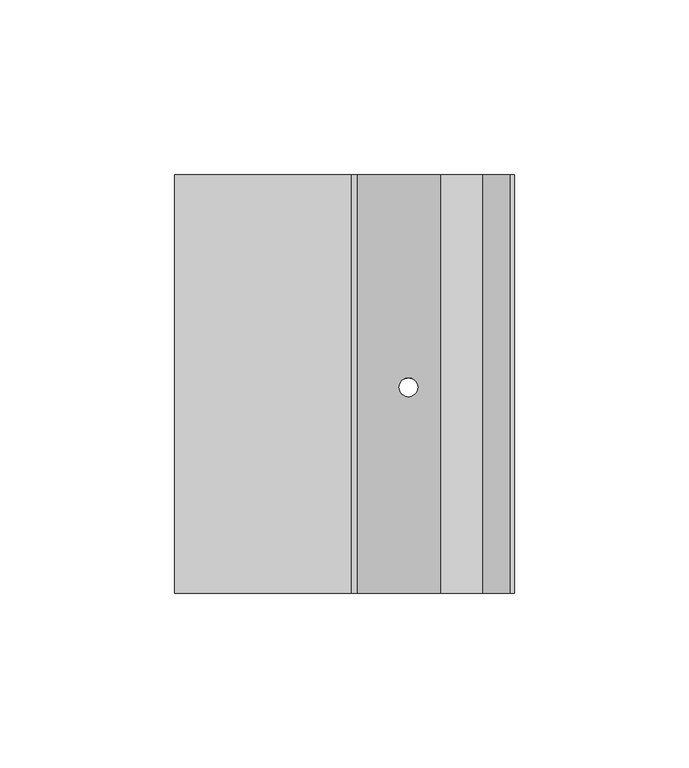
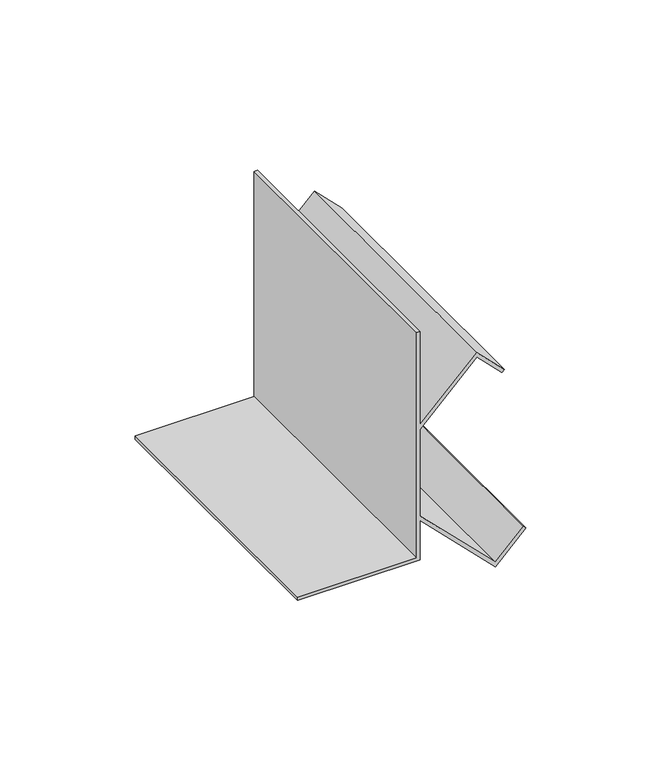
"""IFC4 building model written with IfcOpenShell, lengths in millimetres: proxy geometry, Mechanical Fittings & Accessories18 : Mechanical Fittings & Accessories."""

from ifc_helpers import new_model, si_unit, frame, origin, place, context, project, spatial, polyline, ellipse_curve, source, transform, mapped, element, save
from ifc_brep_helpers import plane_surface, revolved_surface, advanced_brep


def generic_models_3031afbb(model_context):
    return source(origin(), model_context, "Body", "AdvancedBrep", [
        advanced_brep(
        [(-12208.7639562, 10780.4963986, 4114.8), (-12259.5639562, 10780.4963986, 4114.8), (-12259.5639562, 10780.4963986, 4113.3117188), (-12207.275675, 10780.4963986, 4113.3117188), (-12207.275675, 10780.4963986, 4131.1383509), (-12175.165914, 10780.4963986, 4099.0285899), (-12162.1869427, 10780.4963986, 4112.0075612), (-12163.2393164, 10780.4963986, 4113.059935), (-12175.165914, 10780.4963986, 4101.1333374), (-12207.275675, 10780.4963986, 4133.2430984), (-12207.275675, 10780.4963986, 4172.2761118), (-12183.103414, 10780.4963986, 4196.4483729), (-12172.3674414, 10780.4963986, 4185.7124003), (-12171.3150677, 10780.4963986, 4186.7647741), (-12183.103414, 10780.4963986, 4198.5531204), (-12207.275675, 10780.4963986, 4174.3808594), (-12207.275675, 10780.4963986, 4216.4), (-12208.7639562, 10780.4963986, 4216.4), (-12208.7639562, 10900.4645457, 4114.8), (-12208.7639562, 10900.4645457, 4216.4), (-12207.275675, 10900.4645457, 4216.4), (-12207.275675, 10900.4645457, 4174.3808594), (-12183.103414, 10900.4645457, 4198.5531204), (-12171.3150677, 10900.4645457, 4186.7647741), (-12172.3674414, 10900.4645457, 4185.7124003), (-12183.103414, 10900.4645457, 4196.4483729), (-12207.275675, 10900.4645457, 4172.2761118), (-12207.275675, 10900.4645457, 4133.2430984), (-12175.165914, 10900.4645457, 4101.1333374), (-12163.2393164, 10900.4645457, 4113.059935), (-12162.1869427, 10900.4645457, 4112.0075612), (-12175.165914, 10900.4645457, 4099.0285899), (-12207.275675, 10900.4645457, 4131.1383509), (-12207.275675, 10900.4645457, 4113.3117188), (-12259.5639562, 10900.4645457, 4113.3117188), (-12259.5639562, 10900.4645457, 4114.8), (-12195.1617646, 10839.5191481, 4119.0244406), (-12189.8223978, 10839.5191481, 4113.6850737), (-12189.8223978, 10839.5191481, 4115.7898213), (-12195.1617646, 10839.5191481, 4121.1291881), (-12195.1617646, 10839.5191481, 4184.3900222), (-12189.8223978, 10839.5191481, 4189.729389), (-12189.8223978, 10839.5191481, 4191.8341365), (-12195.1617646, 10839.5191481, 4186.4947697)],
        [
            (0, 1),
            (1, 2),
            (2, 3),
            (3, 4),
            (4, 5),
            (5, 6),
            (6, 7),
            (7, 8),
            (8, 9),
            (9, 10),
            (10, 11),
            (11, 12),
            (12, 13),
            (13, 14),
            (14, 15),
            (15, 16),
            (16, 17),
            (17, 0),
            (18, 19),
            (19, 20),
            (20, 21),
            (21, 22),
            (22, 23),
            (23, 24),
            (24, 25),
            (25, 26),
            (26, 27),
            (27, 28),
            (28, 29),
            (29, 30),
            (30, 31),
            (31, 32),
            (32, 33),
            (33, 34),
            (34, 35),
            (35, 18),
            (0, 18),
            (35, 1),
            (34, 2),
            (33, 3),
            (32, 4),
            (31, 5),
            (36, 37, ellipse_curve(frame((-12192.4920812, 10839.5191481, 4116.3547571), z_axis=(0.7071067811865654, 0.0, 0.7071067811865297), x_axis=(-0.7071067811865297, 0.0, 0.7071067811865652)), 3.7755025, 2.6696834)),
            (37, 36, ellipse_curve(frame((-12192.4920812, 10839.5191481, 4116.3547571), z_axis=(0.7071067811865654, 0.0, 0.7071067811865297), x_axis=(-0.7071067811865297, 0.0, 0.7071067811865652)), 3.7755025, 2.6696834)),
            (30, 6),
            (29, 7),
            (28, 8),
            (27, 9),
            (38, 39, ellipse_curve(frame((-12192.4920812, 10839.5191481, 4118.4595047), z_axis=(-0.7071067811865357, 0.0, -0.7071067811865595), x_axis=(-0.7071067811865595, 0.0, 0.7071067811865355)), 3.7755025, 2.6696834)),
            (39, 38, ellipse_curve(frame((-12192.4920812, 10839.5191481, 4118.4595047), z_axis=(-0.7071067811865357, 0.0, -0.7071067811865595), x_axis=(-0.7071067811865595, 0.0, 0.7071067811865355)), 3.7755025, 2.6696834)),
            (26, 10),
            (25, 11),
            (40, 41, ellipse_curve(frame((-12192.4920812, 10839.5191481, 4187.0597056), z_axis=(-0.7071067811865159, 0.0, 0.7071067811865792), x_axis=(0.7071067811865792, 0.0, 0.7071067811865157)), 3.7755025, 2.6696834)),
            (41, 40, ellipse_curve(frame((-12192.4920812, 10839.5191481, 4187.0597056), z_axis=(-0.7071067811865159, 0.0, 0.7071067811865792), x_axis=(0.7071067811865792, 0.0, 0.7071067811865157)), 3.7755025, 2.6696834)),
            (24, 12),
            (23, 13),
            (22, 14),
            (21, 15),
            (42, 43, ellipse_curve(frame((-12192.4920812, 10839.5191481, 4189.1644531), z_axis=(0.7071067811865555, 0.0, -0.7071067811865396), x_axis=(0.7071067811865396, 0.0, 0.7071067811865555)), 3.7755025, 2.6696834)),
            (43, 42, ellipse_curve(frame((-12192.4920812, 10839.5191481, 4189.1644531), z_axis=(0.7071067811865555, 0.0, -0.7071067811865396), x_axis=(0.7071067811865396, 0.0, 0.7071067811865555)), 3.7755025, 2.6696834)),
            (20, 16),
            (19, 17),
            (36, 39),
            (38, 37),
            (40, 43),
            (42, 41),
        ],
        [
            plane_surface(frame((-12259.5639562, 10780.4963986, 4114.8), z_axis=(0.0, -1.0, 0.0), x_axis=(-1.0, 0.0, 0.0))),
            plane_surface(frame((-12259.5639562, 10900.4645457, 4114.8), z_axis=(0.0, 1.0, 0.0), x_axis=(1.0, 0.0, 0.0))),
            plane_surface(frame((-12208.7639562, 10780.4963986, 4114.8), z_axis=(0.0, 0.0, 1.0), x_axis=(0.0, 1.0, 0.0))),
            plane_surface(frame((-12259.5639562, 10780.4963986, 4114.8), z_axis=(-1.0, 0.0, 0.0), x_axis=(0.0, 1.0, 0.0))),
            plane_surface(frame((-12259.5639562, 10780.4963986, 4113.3117188), z_axis=(0.0, 0.0, -1.0), x_axis=(0.0, 1.0, 0.0))),
            plane_surface(frame((-12207.275675, 10780.4963986, 4113.3117188), z_axis=(1.0, 0.0, 0.0), x_axis=(0.0, 1.0, 0.0))),
            plane_surface(frame((-12207.275675, 10780.4963986, 4131.1383509), z_axis=(-0.7071067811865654, 0.0, -0.7071067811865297), x_axis=(0.0, 1.0, 0.0))),
            plane_surface(frame((-12175.165914, 10780.4963986, 4099.0285899), z_axis=(0.7071067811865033, 0.0, -0.7071067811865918), x_axis=(0.0, 1.0, 0.0))),
            plane_surface(frame((-12162.1869427, 10780.4963986, 4112.0075612), z_axis=(0.7071067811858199, 0.0, 0.7071067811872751), x_axis=(0.0, 1.0, 0.0))),
            plane_surface(frame((-12163.2393164, 10780.4963986, 4113.059935), z_axis=(-0.7071067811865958, 0.0, 0.7071067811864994), x_axis=(0.0, 1.0, 0.0))),
            plane_surface(frame((-12175.165914, 10780.4963986, 4101.1333374), z_axis=(0.7071067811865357, 0.0, 0.7071067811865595), x_axis=(0.0, 1.0, 0.0))),
            plane_surface(frame((-12207.275675, 10780.4963986, 4133.2430984), z_axis=(1.0, 0.0, 0.0), x_axis=(0.0, 1.0, 0.0))),
            plane_surface(frame((-12207.275675, 10780.4963986, 4172.2761118), z_axis=(0.7071067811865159, 0.0, -0.7071067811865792), x_axis=(0.0, 1.0, 0.0))),
            plane_surface(frame((-12183.103414, 10780.4963986, 4196.4483729), z_axis=(-0.7071067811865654, 0.0, -0.7071067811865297), x_axis=(0.0, 1.0, 0.0))),
            plane_surface(frame((-12172.3674414, 10780.4963986, 4185.7124003), z_axis=(0.7071067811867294, 0.0, -0.7071067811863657), x_axis=(0.0, 1.0, 0.0))),
            plane_surface(frame((-12171.3150677, 10780.4963986, 4186.7647741), z_axis=(0.7071067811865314, 0.0, 0.7071067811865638), x_axis=(0.0, 1.0, 0.0))),
            plane_surface(frame((-12183.103414, 10780.4963986, 4198.5531204), z_axis=(-0.7071067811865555, 0.0, 0.7071067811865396), x_axis=(0.0, 1.0, 0.0))),
            plane_surface(frame((-12207.275675, 10780.4963986, 4174.3808594), z_axis=(1.0, 0.0, 0.0), x_axis=(0.0, 1.0, 0.0))),
            plane_surface(frame((-12207.275675, 10780.4963986, 4216.4), z_axis=(0.0, 0.0, 1.0), x_axis=(0.0, 1.0, 0.0))),
            plane_surface(frame((-12208.7639562, 10780.4963986, 4216.4), z_axis=(-1.0, 0.0, 0.0), x_axis=(0.0, 1.0, 0.0))),
            revolved_surface(polyline([(-12189.8223978, 10839.5191481, 4121.129188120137), (-12189.8223978, 10839.5191481, 4113.685073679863)]), (-12192.4920812, 10839.5191481, 4097.2034211), (0.0, 0.0, 1.0)),
            revolved_surface(polyline([(-12189.8223978, 10839.5191481, 4191.834136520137), (-12189.8223978, 10839.5191481, 4184.390022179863)]), (-12192.4920812, 10839.5191481, 4097.2034211), (0.0, 0.0, 1.0)),
        ],
        [
            (0, [[1, 2, 3, 4, 5, 6, 7, 8, 9, 10, 11, 12, 13, 14, 15, 16, 17, 18]]),
            (1, [[19, 20, 21, 22, 23, 24, 25, 26, 27, 28, 29, 30, 31, 32, 33, 34, 35, 36]]),
            (2, [[-1, 37, -36, 38]]),
            (3, [[-2, -38, -35, 39]]),
            (4, [[-3, -39, -34, 40]]),
            (5, [[-4, -40, -33, 41]]),
            (6, [[-5, -41, -32, 42], [43, 44]]),
            (7, [[-6, -42, -31, 45]]),
            (8, [[-7, -45, -30, 46]]),
            (9, [[-8, -46, -29, 47]]),
            (10, [[-9, -47, -28, 48], [49, 50]]),
            (11, [[-10, -48, -27, 51]]),
            (12, [[-11, -51, -26, 52], [53, 54]]),
            (13, [[-12, -52, -25, 55]]),
            (14, [[-13, -55, -24, 56]]),
            (15, [[-14, -56, -23, 57]]),
            (16, [[-15, -57, -22, 58], [59, 60]]),
            (17, [[-16, -58, -21, 61]]),
            (18, [[-17, -61, -20, 62]]),
            (19, [[-18, -62, -19, -37]]),
            (20, [[63, -49, 64, -43]]),
            (21, [[65, -59, 66, -53]]),
            (20, [[-63, -44, -64, -50]]),
            (21, [[-65, -54, -66, -60]]),
        ],
    ),
    ])


if __name__ == "__main__":
    model = new_model("IFC4")
    model_context = context("Model", 3, world=origin())
    ifc_project = project(units=[si_unit("LENGTHUNIT", "METRE", prefix="MILLI")], contexts=[model_context])
    site = spatial("IfcSite", under=ifc_project)
    building = spatial("IfcBuilding", under=site)
    placement = place(None, origin())
    generic_models_shape = generic_models_3031afbb(model_context)
    element("IfcBuildingElementProxy", 1, Name="Mechanical Fittings & Accessories18 : Mechanical Fittings & Accessories", ObjectType="Mechanical Fittings & Accessories18 : Mechanical Fittings & Accessories", at=placement, inside=building, context=model_context, shape_type="MappedRepresentation", body=[
        mapped(generic_models_shape, transform((0.0, 0.0, 0.0), x_axis=(1.0, 0.0, 0.0), y_axis=(0.0, 1.0, 0.0), z_axis=(0.0, 0.0, 1.0))),
    ])
    save(model, "model.ifc")
